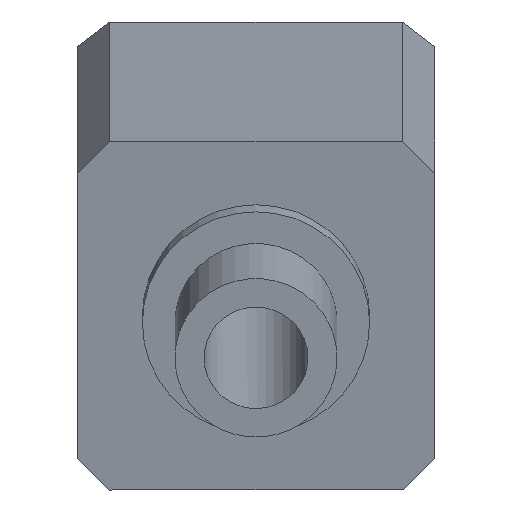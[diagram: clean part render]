
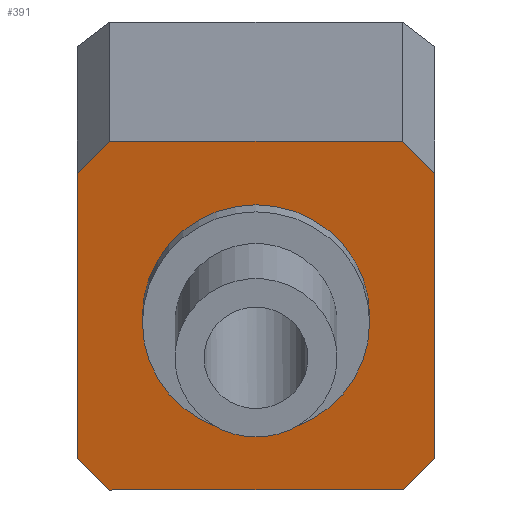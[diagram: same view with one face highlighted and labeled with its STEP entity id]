
A CAD part, front view. The second image highlights one B-rep face of the part: STEP entity #391.
In plain terms, the highlighted planar face has unit normal (0, -0.976, -0.216).
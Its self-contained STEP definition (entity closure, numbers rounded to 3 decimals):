
#24=FACE_BOUND('',#80,.T.);
#32=CIRCLE('',#433,3.5);
#52=FACE_OUTER_BOUND('',#79,.T.);
#79=EDGE_LOOP('',(#278,#279,#280,#281,#282,#283,#284,#285));
#80=EDGE_LOOP('',(#286));
#116=LINE('',#612,#151);
#119=LINE('',#618,#154);
#121=LINE('',#622,#156);
#122=LINE('',#624,#157);
#123=LINE('',#626,#158);
#124=LINE('',#628,#159);
#125=LINE('',#629,#160);
#126=LINE('',#630,#161);
#151=VECTOR('',#484,10.);
#154=VECTOR('',#489,10.);
#156=VECTOR('',#493,10.);
#157=VECTOR('',#494,10.);
#158=VECTOR('',#495,10.);
#159=VECTOR('',#496,10.);
#160=VECTOR('',#497,10.);
#161=VECTOR('',#498,10.);
#185=VERTEX_POINT('',#609);
#186=VERTEX_POINT('',#611);
#187=VERTEX_POINT('',#615);
#188=VERTEX_POINT('',#617);
#189=VERTEX_POINT('',#621);
#190=VERTEX_POINT('',#623);
#191=VERTEX_POINT('',#625);
#192=VERTEX_POINT('',#627);
#193=VERTEX_POINT('',#631);
#219=EDGE_CURVE('',#185,#186,#116,.T.);
#222=EDGE_CURVE('',#187,#188,#119,.T.);
#224=EDGE_CURVE('',#185,#189,#121,.T.);
#225=EDGE_CURVE('',#190,#189,#122,.T.);
#226=EDGE_CURVE('',#190,#191,#123,.T.);
#227=EDGE_CURVE('',#192,#191,#124,.T.);
#228=EDGE_CURVE('',#192,#188,#125,.F.);
#229=EDGE_CURVE('',#187,#186,#126,.F.);
#230=EDGE_CURVE('',#193,#193,#32,.T.);
#278=ORIENTED_EDGE('',*,*,#219,.F.);
#279=ORIENTED_EDGE('',*,*,#224,.T.);
#280=ORIENTED_EDGE('',*,*,#225,.F.);
#281=ORIENTED_EDGE('',*,*,#226,.T.);
#282=ORIENTED_EDGE('',*,*,#227,.F.);
#283=ORIENTED_EDGE('',*,*,#228,.T.);
#284=ORIENTED_EDGE('',*,*,#222,.F.);
#285=ORIENTED_EDGE('',*,*,#229,.T.);
#286=ORIENTED_EDGE('',*,*,#230,.T.);
#373=PLANE('',#432);
#391=ADVANCED_FACE('',(#52,#24),#373,.F.);
#432=AXIS2_PLACEMENT_3D('',#620,#491,#492);
#433=AXIS2_PLACEMENT_3D('',#632,#499,#500);
#484=DIRECTION('',(-0.707,0.153,-0.69));
#489=DIRECTION('',(-0.707,-0.153,0.69));
#491=DIRECTION('center_axis',(0.,0.976,0.216));
#492=DIRECTION('ref_axis',(-1.,0.,0.));
#493=DIRECTION('',(0.,-0.216,0.976));
#494=DIRECTION('',(0.707,0.153,-0.69));
#495=DIRECTION('',(-1.,0.,0.));
#496=DIRECTION('',(0.707,-0.153,0.69));
#497=DIRECTION('',(0.,-0.216,0.976));
#498=DIRECTION('',(-1.,0.,0.));
#499=DIRECTION('center_axis',(0.,0.976,0.216));
#500=DIRECTION('ref_axis',(1.,0.,0.));
#609=CARTESIAN_POINT('',(5.5,27.119,50.553));
#611=CARTESIAN_POINT('',(4.5,27.336,49.576));
#612=CARTESIAN_POINT('',(5.,27.227,50.065));
#615=CARTESIAN_POINT('',(-4.5,27.336,49.576));
#617=CARTESIAN_POINT('',(-5.5,27.119,50.553));
#618=CARTESIAN_POINT('',(-5.,27.227,50.065));
#620=CARTESIAN_POINT('Origin',(0.,26.145,54.946));
#621=CARTESIAN_POINT('',(5.5,25.171,59.339));
#622=CARTESIAN_POINT('',(5.5,22.694,70.513));
#623=CARTESIAN_POINT('',(4.5,24.955,60.316));
#624=CARTESIAN_POINT('',(5.,25.063,59.827));
#625=CARTESIAN_POINT('',(-4.5,24.955,60.316));
#626=CARTESIAN_POINT('',(-2.75,24.955,60.316));
#627=CARTESIAN_POINT('',(-5.5,25.171,59.339));
#628=CARTESIAN_POINT('',(-5.,25.063,59.827));
#629=CARTESIAN_POINT('',(-5.5,22.694,70.513));
#630=CARTESIAN_POINT('',(-2.75,27.336,49.576));
#631=CARTESIAN_POINT('',(-3.5,26.145,54.946));
#632=CARTESIAN_POINT('Origin',(0.,26.145,54.946));
